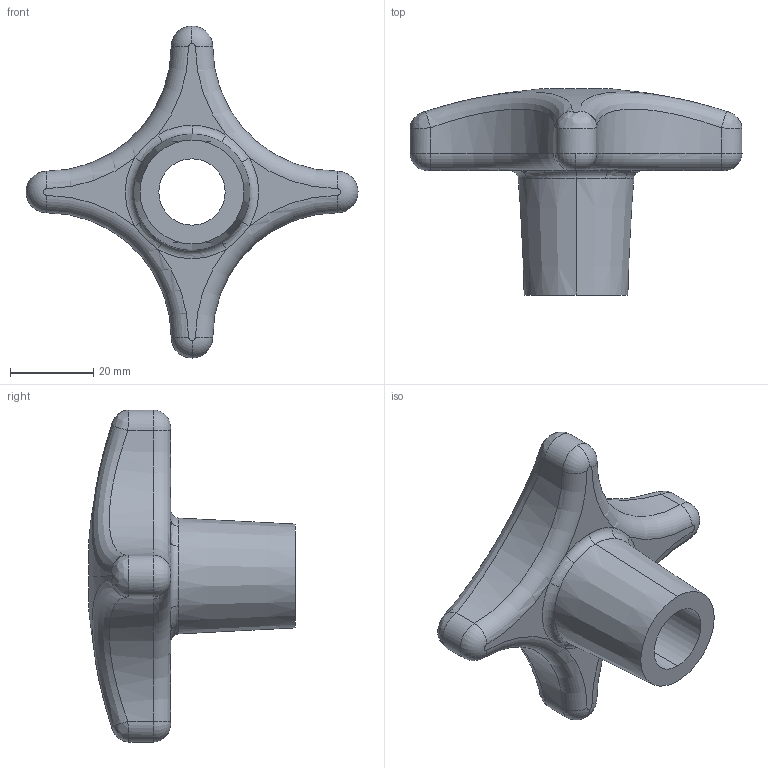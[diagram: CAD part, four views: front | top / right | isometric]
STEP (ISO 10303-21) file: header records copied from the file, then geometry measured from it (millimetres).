
FILE_DESCRIPTION (( 'STEP AP203' ), '1' );
FILE_NAME ('70040.W0380.step', '2019-01-26T19:31:09', ( '' ), ( '' ), 'SwSTEP 2.0', 'SolidWorks 2017', '' );
FILE_SCHEMA (( 'CONFIG_CONTROL_DESIGN' ));
Length unit declared in the file: millimetre
Products named in the file (1): 70040.W0380
Bounding box: 80 x 49.69 x 80 mm (x, y, z)
Volume: 44340.2 mm3; surface area: 12269.3 mm2
Topology: 1 solids, 1 shells, 50 faces, 118 edges, 70 vertices
Faces by surface type: torus 15, cylinder 13, bspline 12, plane 6, cone 2, sphere 2
Entity records: 2972 total; most frequent: CARTESIAN_POINT 1782, DIRECTION 245, ORIENTED_EDGE 236, EDGE_CURVE 118, AXIS2_PLACEMENT_3D 115, CIRCLE 76, VERTEX_POINT 70, EDGE_LOOP 52
